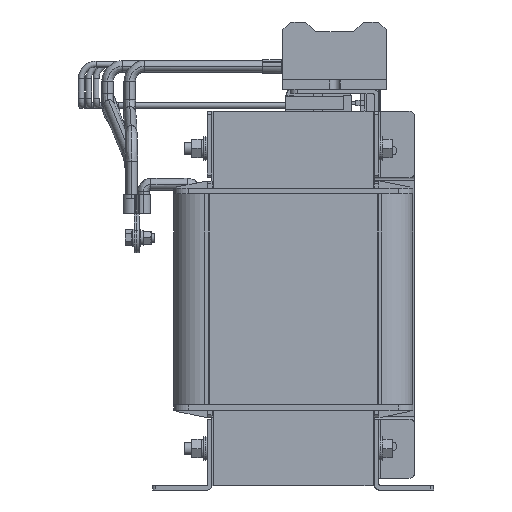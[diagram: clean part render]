
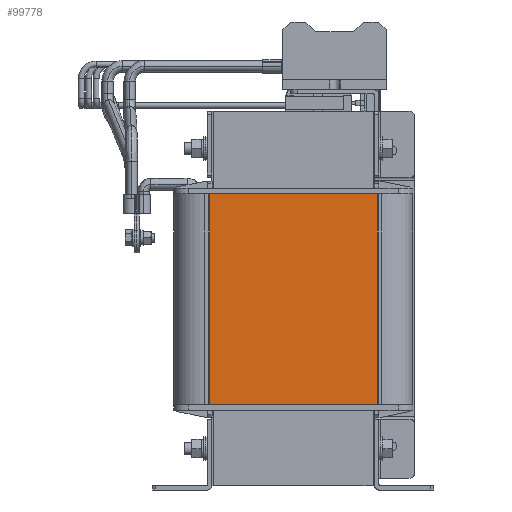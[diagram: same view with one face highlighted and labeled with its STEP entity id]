
A CAD part, left-side view. The second image highlights one B-rep face of the part: STEP entity #99778.
In plain terms, the highlighted planar face has unit normal (-1, 0, 0).
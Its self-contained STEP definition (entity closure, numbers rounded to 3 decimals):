
#2792 = EDGE_CURVE ( 'NONE', #117120, #89292, #101271, .T. ) ;
#9169 = DIRECTION ( 'NONE',  ( 0., 0., 1. ) ) ;
#9568 = CARTESIAN_POINT ( 'NONE',  ( -147.34, 151.843, 200.25 ) ) ;
#17729 = PLANE ( 'NONE',  #103832 ) ;
#25335 = VECTOR ( 'NONE', #42857, 1000. ) ;
#31602 = EDGE_LOOP ( 'NONE', ( #77894, #44817, #105835, #123555 ) ) ;
#31822 = EDGE_CURVE ( 'NONE', #79285, #117120, #119661, .T. ) ;
#33634 = CARTESIAN_POINT ( 'NONE',  ( -147.34, 151.843, 57.75 ) ) ;
#35689 = DIRECTION ( 'NONE',  ( 0., -1., 0. ) ) ;
#42857 = DIRECTION ( 'NONE',  ( 0., -1., 0. ) ) ;
#44817 = ORIENTED_EDGE ( 'NONE', *, *, #47467, .T. ) ;
#47467 = EDGE_CURVE ( 'NONE', #89292, #79945, #86380, .T. ) ;
#47808 = FACE_OUTER_BOUND ( 'NONE', #31602, .T. ) ;
#55398 = DIRECTION ( 'NONE',  ( -1., 0., 0. ) ) ;
#56475 = CARTESIAN_POINT ( 'NONE',  ( -147.34, 86.416, 200.25 ) ) ;
#68675 = CARTESIAN_POINT ( 'NONE',  ( -147.34, 151.843, 57.75 ) ) ;
#76683 = CARTESIAN_POINT ( 'NONE',  ( -147.34, 134.842, 57.75 ) ) ;
#77894 = ORIENTED_EDGE ( 'NONE', *, *, #2792, .T. ) ;
#79285 = VERTEX_POINT ( 'NONE', #9568 ) ;
#79945 = VERTEX_POINT ( 'NONE', #109789 ) ;
#86380 = LINE ( 'NONE', #95160, #112790 ) ;
#89292 = VERTEX_POINT ( 'NONE', #101257 ) ;
#95160 = CARTESIAN_POINT ( 'NONE',  ( -147.34, 38.157, 57.75 ) ) ;
#99645 = DIRECTION ( 'NONE',  ( 0., 0., -1. ) ) ;
#99778 = ADVANCED_FACE ( 'NONE', ( #47808 ), #17729, .T. ) ;
#100251 = EDGE_CURVE ( 'NONE', #79285, #79945, #103608, .T. ) ;
#101084 = VECTOR ( 'NONE', #99645, 1000. ) ;
#101257 = CARTESIAN_POINT ( 'NONE',  ( -147.34, 38.157, 57.75 ) ) ;
#101271 = LINE ( 'NONE', #120696, #25335 ) ;
#103608 = LINE ( 'NONE', #56475, #116195 ) ;
#103832 = AXIS2_PLACEMENT_3D ( 'NONE', #76683, #55398, #114359 ) ;
#105835 = ORIENTED_EDGE ( 'NONE', *, *, #100251, .F. ) ;
#109789 = CARTESIAN_POINT ( 'NONE',  ( -147.34, 38.157, 200.25 ) ) ;
#112790 = VECTOR ( 'NONE', #9169, 1000. ) ;
#114359 = DIRECTION ( 'NONE',  ( 0., 0., 1. ) ) ;
#116195 = VECTOR ( 'NONE', #35689, 1000. ) ;
#117120 = VERTEX_POINT ( 'NONE', #68675 ) ;
#119661 = LINE ( 'NONE', #33634, #101084 ) ;
#120696 = CARTESIAN_POINT ( 'NONE',  ( -147.34, 86.416, 57.75 ) ) ;
#123555 = ORIENTED_EDGE ( 'NONE', *, *, #31822, .T. ) ;
